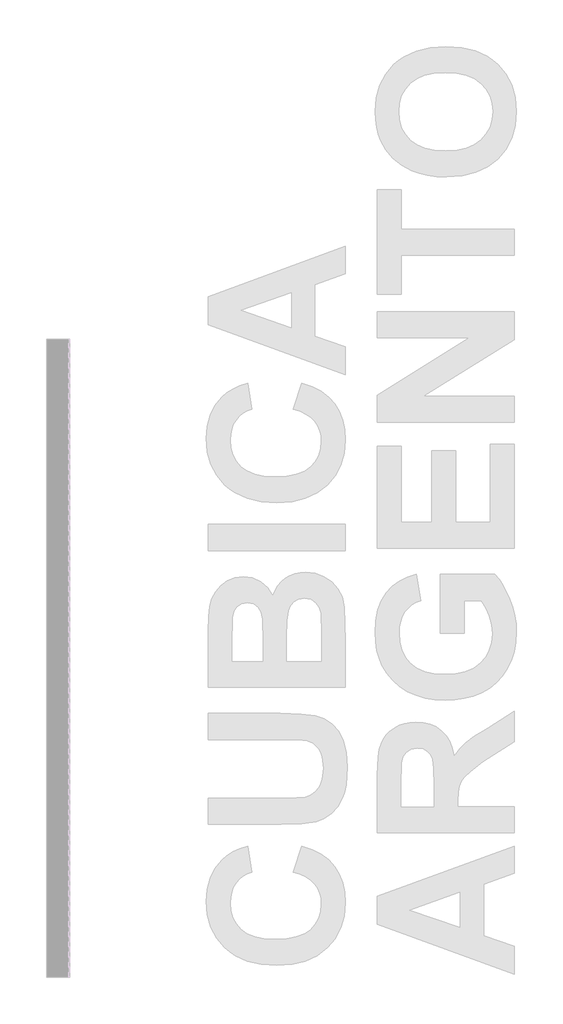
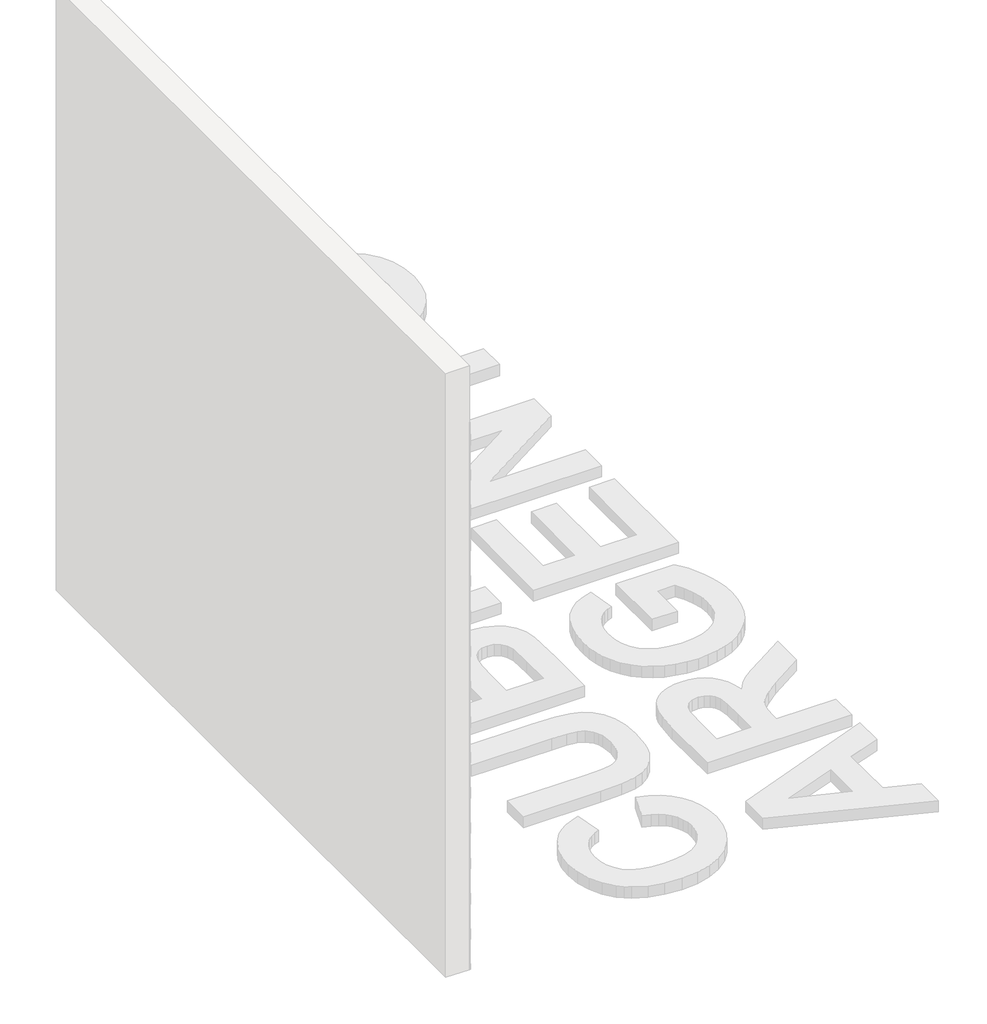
# One storey, part 13 of 121: 145 proxies.
"""IFC4 building model written with IfcOpenShell, lengths in millimetres."""

from ifc_helpers import new_model, si_unit, origin, place, context, project, spatial, transform, mapped, element, save
from components import generic_models_b2b2c5c1, generic_models_9bf73f6f, generic_models_5d175859, generic_models_95f85f1d

model = new_model("IFC4")

# Units and contexts
model_context = context("Model", 3, world=origin())
ifc_project = project(units=[si_unit("LENGTHUNIT", "METRE", prefix="MILLI")], contexts=[model_context])

# Site, building, storey
site = spatial("IfcSite", under=ifc_project)
building = spatial("IfcBuilding", under=site)
storey = spatial("IfcBuildingStorey", under=building, Name="PORTOBELLO - SHOWROOM", Elevation=0.0)

# Proxies
placement = place(None, origin())
generic_models_shape = generic_models_b2b2c5c1(model_context)
element("IfcBuildingElementProxy", 1, Name="PBSHOP - CUBICA ARGENTO 4,8X8,3 : CUBICA ARGENTO - POSIÇÃO 01", ObjectType="PBSHOP - CUBICA ARGENTO 4,8X8,3 : CUBICA ARGENTO - POSIÇÃO 01", at=placement, inside=storey, context=model_context, shape_type="MappedRepresentation", body=[
    mapped(generic_models_shape, transform((150369.5341846, -4768.345408, 39.4221668), x_axis=(0.0, 1.0, 0.0), y_axis=(0.0, 0.0, 1.0), z_axis=(1.0, 0.0, 0.0))),
])
element("IfcBuildingElementProxy", 2, Name="PBSHOP - CUBICA ARGENTO 4,8X8,3 : CUBICA ARGENTO - POSIÇÃO 01", ObjectType="PBSHOP - CUBICA ARGENTO 4,8X8,3 : CUBICA ARGENTO - POSIÇÃO 01", at=placement, inside=storey, context=model_context, shape_type="MappedRepresentation", body=[
    mapped(generic_models_shape, transform((150369.5341846, -4677.5061388, 39.4221668), x_axis=(0.0, 1.0, 0.0), y_axis=(0.0, 0.0, 1.0), z_axis=(1.0, 0.0, 0.0))),
])
element("IfcBuildingElementProxy", 3, Name="PBSHOP - CUBICA ARGENTO 4,8X8,3 : CUBICA ARGENTO - POSIÇÃO 01", ObjectType="PBSHOP - CUBICA ARGENTO 4,8X8,3 : CUBICA ARGENTO - POSIÇÃO 01", at=placement, inside=storey, context=model_context, shape_type="MappedRepresentation", body=[
    mapped(generic_models_shape, transform((150369.5341846, -4586.6668696, 39.4221668), x_axis=(0.0, 1.0, 0.0), y_axis=(0.0, 0.0, 1.0), z_axis=(1.0, 0.0, 0.0))),
])
element("IfcBuildingElementProxy", 4, Name="PBSHOP - CUBICA ARGENTO 4,8X8,3 : CUBICA ARGENTO - POSIÇÃO 01", ObjectType="PBSHOP - CUBICA ARGENTO 4,8X8,3 : CUBICA ARGENTO - POSIÇÃO 01", at=placement, inside=storey, context=model_context, shape_type="MappedRepresentation", body=[
    mapped(generic_models_shape, transform((150369.5341846, -4495.8276003, 39.4221668), x_axis=(0.0, 1.0, 0.0), y_axis=(0.0, 0.0, 1.0), z_axis=(1.0, 0.0, 0.0))),
])
element("IfcBuildingElementProxy", 5, Name="PBSHOP - CUBICA ARGENTO 4,8X8,3 : CUBICA ARGENTO - POSIÇÃO 01", ObjectType="PBSHOP - CUBICA ARGENTO 4,8X8,3 : CUBICA ARGENTO - POSIÇÃO 01", at=placement, inside=storey, context=model_context, shape_type="MappedRepresentation", body=[
    mapped(generic_models_shape, transform((150369.5341846, -4404.9883311, 39.4221668), x_axis=(0.0, 1.0, 0.0), y_axis=(0.0, 0.0, 1.0), z_axis=(1.0, 0.0, 0.0))),
])
element("IfcBuildingElementProxy", 6, Name="PBSHOP - CUBICA ARGENTO 4,8X8,3 : CUBICA ARGENTO - POSIÇÃO 01", ObjectType="PBSHOP - CUBICA ARGENTO 4,8X8,3 : CUBICA ARGENTO - POSIÇÃO 01", at=placement, inside=storey, context=model_context, shape_type="MappedRepresentation", body=[
    mapped(generic_models_shape, transform((150369.5341846, -4314.1490618, 39.4221668), x_axis=(0.0, 1.0, 0.0), y_axis=(0.0, 0.0, 1.0), z_axis=(1.0, 0.0, 0.0))),
])
element("IfcBuildingElementProxy", 7, Name="PBSHOP - CUBICA ARGENTO 4,8X8,3 : CUBICA ARGENTO - POSIÇÃO 01", ObjectType="PBSHOP - CUBICA ARGENTO 4,8X8,3 : CUBICA ARGENTO - POSIÇÃO 01", at=placement, inside=storey, context=model_context, shape_type="MappedRepresentation", body=[
    mapped(generic_models_shape, transform((150369.5341846, -4223.3097926, 39.4221668), x_axis=(0.0, 1.0, 0.0), y_axis=(0.0, 0.0, 1.0), z_axis=(1.0, 0.0, 0.0))),
])
element("IfcBuildingElementProxy", 8, Name="PBSHOP - CUBICA ARGENTO 4,8X8,3 : CUBICA ARGENTO - POSIÇÃO 01", ObjectType="PBSHOP - CUBICA ARGENTO 4,8X8,3 : CUBICA ARGENTO - POSIÇÃO 01", at=placement, inside=storey, context=model_context, shape_type="MappedRepresentation", body=[
    mapped(generic_models_shape, transform((150369.5341846, -4132.4705233, 39.4221668), x_axis=(0.0, 1.0, 0.0), y_axis=(0.0, 0.0, 1.0), z_axis=(1.0, 0.0, 0.0))),
])
element("IfcBuildingElementProxy", 9, Name="PBSHOP - CUBICA ARGENTO 4,8X8,3 : CUBICA ARGENTO - POSIÇÃO 01", ObjectType="PBSHOP - CUBICA ARGENTO 4,8X8,3 : CUBICA ARGENTO - POSIÇÃO 01", at=placement, inside=storey, context=model_context, shape_type="MappedRepresentation", body=[
    mapped(generic_models_shape, transform((150369.5341846, -4041.6312541, 39.4221668), x_axis=(0.0, 1.0, 0.0), y_axis=(0.0, 0.0, 1.0), z_axis=(1.0, 0.0, 0.0))),
])
element("IfcBuildingElementProxy", 10, Name="PBSHOP - CUBICA ARGENTO 4,8X8,3 : CUBICA ARGENTO - POSIÇÃO 01", ObjectType="PBSHOP - CUBICA ARGENTO 4,8X8,3 : CUBICA ARGENTO - POSIÇÃO 01", at=placement, inside=storey, context=model_context, shape_type="MappedRepresentation", body=[
    mapped(generic_models_shape, transform((150369.5341846, -4995.4435811, 118.3568052), x_axis=(0.0, 1.0, 0.0), y_axis=(0.0, 0.0, 1.0), z_axis=(1.0, 0.0, 0.0))),
])
element("IfcBuildingElementProxy", 11, Name="PBSHOP - CUBICA ARGENTO 4,8X8,3 : CUBICA ARGENTO - POSIÇÃO 01", ObjectType="PBSHOP - CUBICA ARGENTO 4,8X8,3 : CUBICA ARGENTO - POSIÇÃO 01", at=placement, inside=storey, context=model_context, shape_type="MappedRepresentation", body=[
    mapped(generic_models_shape, transform((150369.5341846, -4904.6043119, 118.3568052), x_axis=(0.0, 1.0, 0.0), y_axis=(0.0, 0.0, 1.0), z_axis=(1.0, 0.0, 0.0))),
])
element("IfcBuildingElementProxy", 12, Name="PBSHOP - CUBICA ARGENTO 4,8X8,3 : CUBICA ARGENTO - POSIÇÃO 01", ObjectType="PBSHOP - CUBICA ARGENTO 4,8X8,3 : CUBICA ARGENTO - POSIÇÃO 01", at=placement, inside=storey, context=model_context, shape_type="MappedRepresentation", body=[
    mapped(generic_models_shape, transform((150369.5341846, -4813.7650427, 118.3568052), x_axis=(0.0, 1.0, 0.0), y_axis=(0.0, 0.0, 1.0), z_axis=(1.0, 0.0, 0.0))),
])
element("IfcBuildingElementProxy", 13, Name="PBSHOP - CUBICA ARGENTO 4,8X8,3 : CUBICA ARGENTO - POSIÇÃO 01", ObjectType="PBSHOP - CUBICA ARGENTO 4,8X8,3 : CUBICA ARGENTO - POSIÇÃO 01", at=placement, inside=storey, context=model_context, shape_type="MappedRepresentation", body=[
    mapped(generic_models_shape, transform((150369.5341846, -4722.9257734, 118.3568052), x_axis=(0.0, 1.0, 0.0), y_axis=(0.0, 0.0, 1.0), z_axis=(1.0, 0.0, 0.0))),
])
element("IfcBuildingElementProxy", 14, Name="PBSHOP - CUBICA ARGENTO 4,8X8,3 : CUBICA ARGENTO - POSIÇÃO 01", ObjectType="PBSHOP - CUBICA ARGENTO 4,8X8,3 : CUBICA ARGENTO - POSIÇÃO 01", at=placement, inside=storey, context=model_context, shape_type="MappedRepresentation", body=[
    mapped(generic_models_shape, transform((150369.5341846, -4632.0865042, 118.3568052), x_axis=(0.0, 1.0, 0.0), y_axis=(0.0, 0.0, 1.0), z_axis=(1.0, 0.0, 0.0))),
])
element("IfcBuildingElementProxy", 15, Name="PBSHOP - CUBICA ARGENTO 4,8X8,3 : CUBICA ARGENTO - POSIÇÃO 01", ObjectType="PBSHOP - CUBICA ARGENTO 4,8X8,3 : CUBICA ARGENTO - POSIÇÃO 01", at=placement, inside=storey, context=model_context, shape_type="MappedRepresentation", body=[
    mapped(generic_models_shape, transform((150369.5341846, -4541.2472349, 118.3568052), x_axis=(0.0, 1.0, 0.0), y_axis=(0.0, 0.0, 1.0), z_axis=(1.0, 0.0, 0.0))),
])
element("IfcBuildingElementProxy", 16, Name="PBSHOP - CUBICA ARGENTO 4,8X8,3 : CUBICA ARGENTO - POSIÇÃO 01", ObjectType="PBSHOP - CUBICA ARGENTO 4,8X8,3 : CUBICA ARGENTO - POSIÇÃO 01", at=placement, inside=storey, context=model_context, shape_type="MappedRepresentation", body=[
    mapped(generic_models_shape, transform((150369.5341846, -4450.4079657, 118.3568052), x_axis=(0.0, 1.0, 0.0), y_axis=(0.0, 0.0, 1.0), z_axis=(1.0, 0.0, 0.0))),
])
element("IfcBuildingElementProxy", 17, Name="PBSHOP - CUBICA ARGENTO 4,8X8,3 : CUBICA ARGENTO - POSIÇÃO 01", ObjectType="PBSHOP - CUBICA ARGENTO 4,8X8,3 : CUBICA ARGENTO - POSIÇÃO 01", at=placement, inside=storey, context=model_context, shape_type="MappedRepresentation", body=[
    mapped(generic_models_shape, transform((150369.5341846, -4359.5686964, 118.3568052), x_axis=(0.0, 1.0, 0.0), y_axis=(0.0, 0.0, 1.0), z_axis=(1.0, 0.0, 0.0))),
])
element("IfcBuildingElementProxy", 18, Name="PBSHOP - CUBICA ARGENTO 4,8X8,3 : CUBICA ARGENTO - POSIÇÃO 01", ObjectType="PBSHOP - CUBICA ARGENTO 4,8X8,3 : CUBICA ARGENTO - POSIÇÃO 01", at=placement, inside=storey, context=model_context, shape_type="MappedRepresentation", body=[
    mapped(generic_models_shape, transform((150369.5341846, -4268.7294272, 118.3568052), x_axis=(0.0, 1.0, 0.0), y_axis=(0.0, 0.0, 1.0), z_axis=(1.0, 0.0, 0.0))),
])
element("IfcBuildingElementProxy", 19, Name="PBSHOP - CUBICA ARGENTO 4,8X8,3 : CUBICA ARGENTO - POSIÇÃO 01", ObjectType="PBSHOP - CUBICA ARGENTO 4,8X8,3 : CUBICA ARGENTO - POSIÇÃO 01", at=placement, inside=storey, context=model_context, shape_type="MappedRepresentation", body=[
    mapped(generic_models_shape, transform((150369.5341846, -4177.890158, 118.3568052), x_axis=(0.0, 1.0, 0.0), y_axis=(0.0, 0.0, 1.0), z_axis=(1.0, 0.0, 0.0))),
])
element("IfcBuildingElementProxy", 20, Name="PBSHOP - CUBICA ARGENTO 4,8X8,3 : CUBICA ARGENTO - POSIÇÃO 01", ObjectType="PBSHOP - CUBICA ARGENTO 4,8X8,3 : CUBICA ARGENTO - POSIÇÃO 01", at=placement, inside=storey, context=model_context, shape_type="MappedRepresentation", body=[
    mapped(generic_models_shape, transform((150369.5341846, -4087.0508887, 118.3568052), x_axis=(0.0, 1.0, 0.0), y_axis=(0.0, 0.0, 1.0), z_axis=(1.0, 0.0, 0.0))),
])
element("IfcBuildingElementProxy", 21, Name="PBSHOP - CUBICA ARGENTO 4,8X8,3 : CUBICA ARGENTO - POSIÇÃO 01", ObjectType="PBSHOP - CUBICA ARGENTO 4,8X8,3 : CUBICA ARGENTO - POSIÇÃO 01", at=placement, inside=storey, context=model_context, shape_type="MappedRepresentation", body=[
    mapped(generic_models_shape, transform((150369.5341846, -4950.0239465, 197.2914436), x_axis=(0.0, 1.0, 0.0), y_axis=(0.0, 0.0, 1.0), z_axis=(1.0, 0.0, 0.0))),
])
element("IfcBuildingElementProxy", 22, Name="PBSHOP - CUBICA ARGENTO 4,8X8,3 : CUBICA ARGENTO - POSIÇÃO 01", ObjectType="PBSHOP - CUBICA ARGENTO 4,8X8,3 : CUBICA ARGENTO - POSIÇÃO 01", at=placement, inside=storey, context=model_context, shape_type="MappedRepresentation", body=[
    mapped(generic_models_shape, transform((150369.5341846, -4859.1846773, 197.2914436), x_axis=(0.0, 1.0, 0.0), y_axis=(0.0, 0.0, 1.0), z_axis=(1.0, 0.0, 0.0))),
])
element("IfcBuildingElementProxy", 23, Name="PBSHOP - CUBICA ARGENTO 4,8X8,3 : CUBICA ARGENTO - POSIÇÃO 01", ObjectType="PBSHOP - CUBICA ARGENTO 4,8X8,3 : CUBICA ARGENTO - POSIÇÃO 01", at=placement, inside=storey, context=model_context, shape_type="MappedRepresentation", body=[
    mapped(generic_models_shape, transform((150369.5341846, -4768.345408, 197.2914436), x_axis=(0.0, 1.0, 0.0), y_axis=(0.0, 0.0, 1.0), z_axis=(1.0, 0.0, 0.0))),
])
element("IfcBuildingElementProxy", 24, Name="PBSHOP - CUBICA ARGENTO 4,8X8,3 : CUBICA ARGENTO - POSIÇÃO 01", ObjectType="PBSHOP - CUBICA ARGENTO 4,8X8,3 : CUBICA ARGENTO - POSIÇÃO 01", at=placement, inside=storey, context=model_context, shape_type="MappedRepresentation", body=[
    mapped(generic_models_shape, transform((150369.5341846, -4677.5061388, 197.2914436), x_axis=(0.0, 1.0, 0.0), y_axis=(0.0, 0.0, 1.0), z_axis=(1.0, 0.0, 0.0))),
])
element("IfcBuildingElementProxy", 25, Name="PBSHOP - CUBICA ARGENTO 4,8X8,3 : CUBICA ARGENTO - POSIÇÃO 01", ObjectType="PBSHOP - CUBICA ARGENTO 4,8X8,3 : CUBICA ARGENTO - POSIÇÃO 01", at=placement, inside=storey, context=model_context, shape_type="MappedRepresentation", body=[
    mapped(generic_models_shape, transform((150369.5341846, -4586.6668696, 197.2914436), x_axis=(0.0, 1.0, 0.0), y_axis=(0.0, 0.0, 1.0), z_axis=(1.0, 0.0, 0.0))),
])
element("IfcBuildingElementProxy", 26, Name="PBSHOP - CUBICA ARGENTO 4,8X8,3 : CUBICA ARGENTO - POSIÇÃO 01", ObjectType="PBSHOP - CUBICA ARGENTO 4,8X8,3 : CUBICA ARGENTO - POSIÇÃO 01", at=placement, inside=storey, context=model_context, shape_type="MappedRepresentation", body=[
    mapped(generic_models_shape, transform((150369.5341846, -4495.8276003, 197.2914436), x_axis=(0.0, 1.0, 0.0), y_axis=(0.0, 0.0, 1.0), z_axis=(1.0, 0.0, 0.0))),
])
element("IfcBuildingElementProxy", 27, Name="PBSHOP - CUBICA ARGENTO 4,8X8,3 : CUBICA ARGENTO - POSIÇÃO 01", ObjectType="PBSHOP - CUBICA ARGENTO 4,8X8,3 : CUBICA ARGENTO - POSIÇÃO 01", at=placement, inside=storey, context=model_context, shape_type="MappedRepresentation", body=[
    mapped(generic_models_shape, transform((150369.5341846, -4404.9883311, 197.2914436), x_axis=(0.0, 1.0, 0.0), y_axis=(0.0, 0.0, 1.0), z_axis=(1.0, 0.0, 0.0))),
])
element("IfcBuildingElementProxy", 28, Name="PBSHOP - CUBICA ARGENTO 4,8X8,3 : CUBICA ARGENTO - POSIÇÃO 01", ObjectType="PBSHOP - CUBICA ARGENTO 4,8X8,3 : CUBICA ARGENTO - POSIÇÃO 01", at=placement, inside=storey, context=model_context, shape_type="MappedRepresentation", body=[
    mapped(generic_models_shape, transform((150369.5341846, -4314.1490618, 197.2914436), x_axis=(0.0, 1.0, 0.0), y_axis=(0.0, 0.0, 1.0), z_axis=(1.0, 0.0, 0.0))),
])
element("IfcBuildingElementProxy", 29, Name="PBSHOP - CUBICA ARGENTO 4,8X8,3 : CUBICA ARGENTO - POSIÇÃO 01", ObjectType="PBSHOP - CUBICA ARGENTO 4,8X8,3 : CUBICA ARGENTO - POSIÇÃO 01", at=placement, inside=storey, context=model_context, shape_type="MappedRepresentation", body=[
    mapped(generic_models_shape, transform((150369.5341846, -4223.3097926, 197.2914436), x_axis=(0.0, 1.0, 0.0), y_axis=(0.0, 0.0, 1.0), z_axis=(1.0, 0.0, 0.0))),
])
element("IfcBuildingElementProxy", 30, Name="PBSHOP - CUBICA ARGENTO 4,8X8,3 : CUBICA ARGENTO - POSIÇÃO 01", ObjectType="PBSHOP - CUBICA ARGENTO 4,8X8,3 : CUBICA ARGENTO - POSIÇÃO 01", at=placement, inside=storey, context=model_context, shape_type="MappedRepresentation", body=[
    mapped(generic_models_shape, transform((150369.5341846, -4132.4705233, 197.2914436), x_axis=(0.0, 1.0, 0.0), y_axis=(0.0, 0.0, 1.0), z_axis=(1.0, 0.0, 0.0))),
])
element("IfcBuildingElementProxy", 31, Name="PBSHOP - CUBICA ARGENTO 4,8X8,3 : CUBICA ARGENTO - POSIÇÃO 01", ObjectType="PBSHOP - CUBICA ARGENTO 4,8X8,3 : CUBICA ARGENTO - POSIÇÃO 01", at=placement, inside=storey, context=model_context, shape_type="MappedRepresentation", body=[
    mapped(generic_models_shape, transform((150369.5341846, -4041.6312541, 197.2914436), x_axis=(0.0, 1.0, 0.0), y_axis=(0.0, 0.0, 1.0), z_axis=(1.0, 0.0, 0.0))),
])
element("IfcBuildingElementProxy", 32, Name="PBSHOP - CUBICA ARGENTO 4,8X8,3 : CUBICA ARGENTO - POSIÇÃO 01", ObjectType="PBSHOP - CUBICA ARGENTO 4,8X8,3 : CUBICA ARGENTO - POSIÇÃO 01", at=placement, inside=storey, context=model_context, shape_type="MappedRepresentation", body=[
    mapped(generic_models_shape, transform((150369.5341846, -4995.4435811, 276.2260819), x_axis=(0.0, 1.0, 0.0), y_axis=(0.0, 0.0, 1.0), z_axis=(1.0, 0.0, 0.0))),
])
element("IfcBuildingElementProxy", 33, Name="PBSHOP - CUBICA ARGENTO 4,8X8,3 : CUBICA ARGENTO - POSIÇÃO 01", ObjectType="PBSHOP - CUBICA ARGENTO 4,8X8,3 : CUBICA ARGENTO - POSIÇÃO 01", at=placement, inside=storey, context=model_context, shape_type="MappedRepresentation", body=[
    mapped(generic_models_shape, transform((150369.5341846, -4904.6043119, 276.2260819), x_axis=(0.0, 1.0, 0.0), y_axis=(0.0, 0.0, 1.0), z_axis=(1.0, 0.0, 0.0))),
])
element("IfcBuildingElementProxy", 34, Name="PBSHOP - CUBICA ARGENTO 4,8X8,3 : CUBICA ARGENTO - POSIÇÃO 01", ObjectType="PBSHOP - CUBICA ARGENTO 4,8X8,3 : CUBICA ARGENTO - POSIÇÃO 01", at=placement, inside=storey, context=model_context, shape_type="MappedRepresentation", body=[
    mapped(generic_models_shape, transform((150369.5341846, -4813.7650427, 276.2260819), x_axis=(0.0, 1.0, 0.0), y_axis=(0.0, 0.0, 1.0), z_axis=(1.0, 0.0, 0.0))),
])
element("IfcBuildingElementProxy", 35, Name="PBSHOP - CUBICA ARGENTO 4,8X8,3 : CUBICA ARGENTO - POSIÇÃO 01", ObjectType="PBSHOP - CUBICA ARGENTO 4,8X8,3 : CUBICA ARGENTO - POSIÇÃO 01", at=placement, inside=storey, context=model_context, shape_type="MappedRepresentation", body=[
    mapped(generic_models_shape, transform((150369.5341846, -4722.9257734, 276.2260819), x_axis=(0.0, 1.0, 0.0), y_axis=(0.0, 0.0, 1.0), z_axis=(1.0, 0.0, 0.0))),
])
element("IfcBuildingElementProxy", 36, Name="PBSHOP - CUBICA ARGENTO 4,8X8,3 : CUBICA ARGENTO - POSIÇÃO 01", ObjectType="PBSHOP - CUBICA ARGENTO 4,8X8,3 : CUBICA ARGENTO - POSIÇÃO 01", at=placement, inside=storey, context=model_context, shape_type="MappedRepresentation", body=[
    mapped(generic_models_shape, transform((150369.5341846, -4632.0865042, 276.2260819), x_axis=(0.0, 1.0, 0.0), y_axis=(0.0, 0.0, 1.0), z_axis=(1.0, 0.0, 0.0))),
])
element("IfcBuildingElementProxy", 37, Name="PBSHOP - CUBICA ARGENTO 4,8X8,3 : CUBICA ARGENTO - POSIÇÃO 01", ObjectType="PBSHOP - CUBICA ARGENTO 4,8X8,3 : CUBICA ARGENTO - POSIÇÃO 01", at=placement, inside=storey, context=model_context, shape_type="MappedRepresentation", body=[
    mapped(generic_models_shape, transform((150369.5341846, -4541.2472349, 276.2260819), x_axis=(0.0, 1.0, 0.0), y_axis=(0.0, 0.0, 1.0), z_axis=(1.0, 0.0, 0.0))),
])
element("IfcBuildingElementProxy", 38, Name="PBSHOP - CUBICA ARGENTO 4,8X8,3 : CUBICA ARGENTO - POSIÇÃO 01", ObjectType="PBSHOP - CUBICA ARGENTO 4,8X8,3 : CUBICA ARGENTO - POSIÇÃO 01", at=placement, inside=storey, context=model_context, shape_type="MappedRepresentation", body=[
    mapped(generic_models_shape, transform((150369.5341846, -4450.4079657, 276.2260819), x_axis=(0.0, 1.0, 0.0), y_axis=(0.0, 0.0, 1.0), z_axis=(1.0, 0.0, 0.0))),
])
element("IfcBuildingElementProxy", 39, Name="PBSHOP - CUBICA ARGENTO 4,8X8,3 : CUBICA ARGENTO - POSIÇÃO 01", ObjectType="PBSHOP - CUBICA ARGENTO 4,8X8,3 : CUBICA ARGENTO - POSIÇÃO 01", at=placement, inside=storey, context=model_context, shape_type="MappedRepresentation", body=[
    mapped(generic_models_shape, transform((150369.5341846, -4359.5686964, 276.2260819), x_axis=(0.0, 1.0, 0.0), y_axis=(0.0, 0.0, 1.0), z_axis=(1.0, 0.0, 0.0))),
])
element("IfcBuildingElementProxy", 40, Name="PBSHOP - CUBICA ARGENTO 4,8X8,3 : CUBICA ARGENTO - POSIÇÃO 01", ObjectType="PBSHOP - CUBICA ARGENTO 4,8X8,3 : CUBICA ARGENTO - POSIÇÃO 01", at=placement, inside=storey, context=model_context, shape_type="MappedRepresentation", body=[
    mapped(generic_models_shape, transform((150369.5341846, -4268.7294272, 276.2260819), x_axis=(0.0, 1.0, 0.0), y_axis=(0.0, 0.0, 1.0), z_axis=(1.0, 0.0, 0.0))),
])
element("IfcBuildingElementProxy", 41, Name="PBSHOP - CUBICA ARGENTO 4,8X8,3 : CUBICA ARGENTO - POSIÇÃO 01", ObjectType="PBSHOP - CUBICA ARGENTO 4,8X8,3 : CUBICA ARGENTO - POSIÇÃO 01", at=placement, inside=storey, context=model_context, shape_type="MappedRepresentation", body=[
    mapped(generic_models_shape, transform((150369.5341846, -4177.890158, 276.2260819), x_axis=(0.0, 1.0, 0.0), y_axis=(0.0, 0.0, 1.0), z_axis=(1.0, 0.0, 0.0))),
])
element("IfcBuildingElementProxy", 42, Name="PBSHOP - CUBICA ARGENTO 4,8X8,3 : CUBICA ARGENTO - POSIÇÃO 01", ObjectType="PBSHOP - CUBICA ARGENTO 4,8X8,3 : CUBICA ARGENTO - POSIÇÃO 01", at=placement, inside=storey, context=model_context, shape_type="MappedRepresentation", body=[
    mapped(generic_models_shape, transform((150369.5341846, -4087.0508887, 276.2260819), x_axis=(0.0, 1.0, 0.0), y_axis=(0.0, 0.0, 1.0), z_axis=(1.0, 0.0, 0.0))),
])
element("IfcBuildingElementProxy", 43, Name="PBSHOP - CUBICA ARGENTO 4,8X8,3 : CUBICA ARGENTO - POSIÇÃO 01", ObjectType="PBSHOP - CUBICA ARGENTO 4,8X8,3 : CUBICA ARGENTO - POSIÇÃO 01", at=placement, inside=storey, context=model_context, shape_type="MappedRepresentation", body=[
    mapped(generic_models_shape, transform((150369.5341846, -4950.0239465, 355.1607203), x_axis=(0.0, 1.0, 0.0), y_axis=(0.0, 0.0, 1.0), z_axis=(1.0, 0.0, 0.0))),
])
element("IfcBuildingElementProxy", 44, Name="PBSHOP - CUBICA ARGENTO 4,8X8,3 : CUBICA ARGENTO - POSIÇÃO 01", ObjectType="PBSHOP - CUBICA ARGENTO 4,8X8,3 : CUBICA ARGENTO - POSIÇÃO 01", at=placement, inside=storey, context=model_context, shape_type="MappedRepresentation", body=[
    mapped(generic_models_shape, transform((150369.5341846, -4859.1846773, 355.1607203), x_axis=(0.0, 1.0, 0.0), y_axis=(0.0, 0.0, 1.0), z_axis=(1.0, 0.0, 0.0))),
])
element("IfcBuildingElementProxy", 45, Name="PBSHOP - CUBICA ARGENTO 4,8X8,3 : CUBICA ARGENTO - POSIÇÃO 01", ObjectType="PBSHOP - CUBICA ARGENTO 4,8X8,3 : CUBICA ARGENTO - POSIÇÃO 01", at=placement, inside=storey, context=model_context, shape_type="MappedRepresentation", body=[
    mapped(generic_models_shape, transform((150369.5341846, -4768.345408, 355.1607203), x_axis=(0.0, 1.0, 0.0), y_axis=(0.0, 0.0, 1.0), z_axis=(1.0, 0.0, 0.0))),
])
element("IfcBuildingElementProxy", 46, Name="PBSHOP - CUBICA ARGENTO 4,8X8,3 : CUBICA ARGENTO - POSIÇÃO 01", ObjectType="PBSHOP - CUBICA ARGENTO 4,8X8,3 : CUBICA ARGENTO - POSIÇÃO 01", at=placement, inside=storey, context=model_context, shape_type="MappedRepresentation", body=[
    mapped(generic_models_shape, transform((150369.5341846, -4677.5061388, 355.1607203), x_axis=(0.0, 1.0, 0.0), y_axis=(0.0, 0.0, 1.0), z_axis=(1.0, 0.0, 0.0))),
])
element("IfcBuildingElementProxy", 47, Name="PBSHOP - CUBICA ARGENTO 4,8X8,3 : CUBICA ARGENTO - POSIÇÃO 01", ObjectType="PBSHOP - CUBICA ARGENTO 4,8X8,3 : CUBICA ARGENTO - POSIÇÃO 01", at=placement, inside=storey, context=model_context, shape_type="MappedRepresentation", body=[
    mapped(generic_models_shape, transform((150369.5341846, -4586.6668696, 355.1607203), x_axis=(0.0, 1.0, 0.0), y_axis=(0.0, 0.0, 1.0), z_axis=(1.0, 0.0, 0.0))),
])
element("IfcBuildingElementProxy", 48, Name="PBSHOP - CUBICA ARGENTO 4,8X8,3 : CUBICA ARGENTO - POSIÇÃO 01", ObjectType="PBSHOP - CUBICA ARGENTO 4,8X8,3 : CUBICA ARGENTO - POSIÇÃO 01", at=placement, inside=storey, context=model_context, shape_type="MappedRepresentation", body=[
    mapped(generic_models_shape, transform((150369.5341846, -4495.8276003, 355.1607203), x_axis=(0.0, 1.0, 0.0), y_axis=(0.0, 0.0, 1.0), z_axis=(1.0, 0.0, 0.0))),
])
element("IfcBuildingElementProxy", 49, Name="PBSHOP - CUBICA ARGENTO 4,8X8,3 : CUBICA ARGENTO - POSIÇÃO 01", ObjectType="PBSHOP - CUBICA ARGENTO 4,8X8,3 : CUBICA ARGENTO - POSIÇÃO 01", at=placement, inside=storey, context=model_context, shape_type="MappedRepresentation", body=[
    mapped(generic_models_shape, transform((150369.5341846, -4404.9883311, 355.1607203), x_axis=(0.0, 1.0, 0.0), y_axis=(0.0, 0.0, 1.0), z_axis=(1.0, 0.0, 0.0))),
])
element("IfcBuildingElementProxy", 50, Name="PBSHOP - CUBICA ARGENTO 4,8X8,3 : CUBICA ARGENTO - POSIÇÃO 01", ObjectType="PBSHOP - CUBICA ARGENTO 4,8X8,3 : CUBICA ARGENTO - POSIÇÃO 01", at=placement, inside=storey, context=model_context, shape_type="MappedRepresentation", body=[
    mapped(generic_models_shape, transform((150369.5341846, -4314.1490618, 355.1607203), x_axis=(0.0, 1.0, 0.0), y_axis=(0.0, 0.0, 1.0), z_axis=(1.0, 0.0, 0.0))),
])
generic_models_2_shape = generic_models_9bf73f6f(model_context)
element("IfcBuildingElementProxy", 51, Name="PBSHOP - CUBICA ARGENTO 4,8X8,3 : CUBICA ARGENTO - POSIÇÃO 03", ObjectType="PBSHOP - CUBICA ARGENTO 4,8X8,3 : CUBICA ARGENTO - POSIÇÃO 03", at=placement, inside=storey, context=model_context, shape_type="MappedRepresentation", body=[
    mapped(generic_models_2_shape, transform((150369.5341846, -4927.3119701, 78.8482756), x_axis=(0.0, 1.0, 0.0), y_axis=(0.0, 0.0, 1.0), z_axis=(1.0, 0.0, 0.0))),
])
element("IfcBuildingElementProxy", 52, Name="PBSHOP - CUBICA ARGENTO 4,8X8,3 : CUBICA ARGENTO - POSIÇÃO 03", ObjectType="PBSHOP - CUBICA ARGENTO 4,8X8,3 : CUBICA ARGENTO - POSIÇÃO 03", at=placement, inside=storey, context=model_context, shape_type="MappedRepresentation", body=[
    mapped(generic_models_2_shape, transform((150369.5341846, -4836.4727008, 78.8482756), x_axis=(0.0, 1.0, 0.0), y_axis=(0.0, 0.0, 1.0), z_axis=(1.0, 0.0, 0.0))),
])
element("IfcBuildingElementProxy", 53, Name="PBSHOP - CUBICA ARGENTO 4,8X8,3 : CUBICA ARGENTO - POSIÇÃO 03", ObjectType="PBSHOP - CUBICA ARGENTO 4,8X8,3 : CUBICA ARGENTO - POSIÇÃO 03", at=placement, inside=storey, context=model_context, shape_type="MappedRepresentation", body=[
    mapped(generic_models_2_shape, transform((150369.5341846, -4745.6334316, 78.8482756), x_axis=(0.0, 1.0, 0.0), y_axis=(0.0, 0.0, 1.0), z_axis=(1.0, 0.0, 0.0))),
])
element("IfcBuildingElementProxy", 54, Name="PBSHOP - CUBICA ARGENTO 4,8X8,3 : CUBICA ARGENTO - POSIÇÃO 03", ObjectType="PBSHOP - CUBICA ARGENTO 4,8X8,3 : CUBICA ARGENTO - POSIÇÃO 03", at=placement, inside=storey, context=model_context, shape_type="MappedRepresentation", body=[
    mapped(generic_models_2_shape, transform((150369.5341846, -4654.7941623, 78.8482756), x_axis=(0.0, 1.0, 0.0), y_axis=(0.0, 0.0, 1.0), z_axis=(1.0, 0.0, 0.0))),
])
element("IfcBuildingElementProxy", 55, Name="PBSHOP - CUBICA ARGENTO 4,8X8,3 : CUBICA ARGENTO - POSIÇÃO 03", ObjectType="PBSHOP - CUBICA ARGENTO 4,8X8,3 : CUBICA ARGENTO - POSIÇÃO 03", at=placement, inside=storey, context=model_context, shape_type="MappedRepresentation", body=[
    mapped(generic_models_2_shape, transform((150369.5341846, -4563.9548931, 78.8482756), x_axis=(0.0, 1.0, 0.0), y_axis=(0.0, 0.0, 1.0), z_axis=(1.0, 0.0, 0.0))),
])
element("IfcBuildingElementProxy", 56, Name="PBSHOP - CUBICA ARGENTO 4,8X8,3 : CUBICA ARGENTO - POSIÇÃO 03", ObjectType="PBSHOP - CUBICA ARGENTO 4,8X8,3 : CUBICA ARGENTO - POSIÇÃO 03", at=placement, inside=storey, context=model_context, shape_type="MappedRepresentation", body=[
    mapped(generic_models_2_shape, transform((150369.5341846, -4473.1156238, 78.8482756), x_axis=(0.0, 1.0, 0.0), y_axis=(0.0, 0.0, 1.0), z_axis=(1.0, 0.0, 0.0))),
])
element("IfcBuildingElementProxy", 57, Name="PBSHOP - CUBICA ARGENTO 4,8X8,3 : CUBICA ARGENTO - POSIÇÃO 03", ObjectType="PBSHOP - CUBICA ARGENTO 4,8X8,3 : CUBICA ARGENTO - POSIÇÃO 03", at=placement, inside=storey, context=model_context, shape_type="MappedRepresentation", body=[
    mapped(generic_models_2_shape, transform((150369.5341846, -4382.2763546, 78.8482756), x_axis=(0.0, 1.0, 0.0), y_axis=(0.0, 0.0, 1.0), z_axis=(1.0, 0.0, 0.0))),
])
element("IfcBuildingElementProxy", 58, Name="PBSHOP - CUBICA ARGENTO 4,8X8,3 : CUBICA ARGENTO - POSIÇÃO 03", ObjectType="PBSHOP - CUBICA ARGENTO 4,8X8,3 : CUBICA ARGENTO - POSIÇÃO 03", at=placement, inside=storey, context=model_context, shape_type="MappedRepresentation", body=[
    mapped(generic_models_2_shape, transform((150369.5341846, -4291.4370853, 78.8482756), x_axis=(0.0, 1.0, 0.0), y_axis=(0.0, 0.0, 1.0), z_axis=(1.0, 0.0, 0.0))),
])
element("IfcBuildingElementProxy", 59, Name="PBSHOP - CUBICA ARGENTO 4,8X8,3 : CUBICA ARGENTO - POSIÇÃO 03", ObjectType="PBSHOP - CUBICA ARGENTO 4,8X8,3 : CUBICA ARGENTO - POSIÇÃO 03", at=placement, inside=storey, context=model_context, shape_type="MappedRepresentation", body=[
    mapped(generic_models_2_shape, transform((150369.5341846, -4200.5978161, 78.8482756), x_axis=(0.0, 1.0, 0.0), y_axis=(0.0, 0.0, 1.0), z_axis=(1.0, 0.0, 0.0))),
])
element("IfcBuildingElementProxy", 60, Name="PBSHOP - CUBICA ARGENTO 4,8X8,3 : CUBICA ARGENTO - POSIÇÃO 03", ObjectType="PBSHOP - CUBICA ARGENTO 4,8X8,3 : CUBICA ARGENTO - POSIÇÃO 03", at=placement, inside=storey, context=model_context, shape_type="MappedRepresentation", body=[
    mapped(generic_models_2_shape, transform((150369.5341846, -4109.7585469, 78.8482756), x_axis=(0.0, 1.0, 0.0), y_axis=(0.0, 0.0, 1.0), z_axis=(1.0, 0.0, 0.0))),
])
element("IfcBuildingElementProxy", 61, Name="PBSHOP - CUBICA ARGENTO 4,8X8,3 : CUBICA ARGENTO - POSIÇÃO 03", ObjectType="PBSHOP - CUBICA ARGENTO 4,8X8,3 : CUBICA ARGENTO - POSIÇÃO 03", at=placement, inside=storey, context=model_context, shape_type="MappedRepresentation", body=[
    mapped(generic_models_2_shape, transform((150369.5341846, -4018.9192776, 78.8482756), x_axis=(0.0, 1.0, 0.0), y_axis=(0.0, 0.0, 1.0), z_axis=(1.0, 0.0, 0.0))),
])
element("IfcBuildingElementProxy", 62, Name="PBSHOP - CUBICA ARGENTO 4,8X8,3 : CUBICA ARGENTO - POSIÇÃO 03", ObjectType="PBSHOP - CUBICA ARGENTO 4,8X8,3 : CUBICA ARGENTO - POSIÇÃO 03", at=placement, inside=storey, context=model_context, shape_type="MappedRepresentation", body=[
    mapped(generic_models_2_shape, transform((150369.5341846, -4972.7316047, 157.7829139), x_axis=(0.0, 1.0, 0.0), y_axis=(0.0, 0.0, 1.0), z_axis=(1.0, 0.0, 0.0))),
])
element("IfcBuildingElementProxy", 63, Name="PBSHOP - CUBICA ARGENTO 4,8X8,3 : CUBICA ARGENTO - POSIÇÃO 03", ObjectType="PBSHOP - CUBICA ARGENTO 4,8X8,3 : CUBICA ARGENTO - POSIÇÃO 03", at=placement, inside=storey, context=model_context, shape_type="MappedRepresentation", body=[
    mapped(generic_models_2_shape, transform((150369.5341846, -4881.8923354, 157.7829139), x_axis=(0.0, 1.0, 0.0), y_axis=(0.0, 0.0, 1.0), z_axis=(1.0, 0.0, 0.0))),
])
element("IfcBuildingElementProxy", 64, Name="PBSHOP - CUBICA ARGENTO 4,8X8,3 : CUBICA ARGENTO - POSIÇÃO 03", ObjectType="PBSHOP - CUBICA ARGENTO 4,8X8,3 : CUBICA ARGENTO - POSIÇÃO 03", at=placement, inside=storey, context=model_context, shape_type="MappedRepresentation", body=[
    mapped(generic_models_2_shape, transform((150369.5341846, -4791.0530662, 157.7829139), x_axis=(0.0, 1.0, 0.0), y_axis=(0.0, 0.0, 1.0), z_axis=(1.0, 0.0, 0.0))),
])
element("IfcBuildingElementProxy", 65, Name="PBSHOP - CUBICA ARGENTO 4,8X8,3 : CUBICA ARGENTO - POSIÇÃO 03", ObjectType="PBSHOP - CUBICA ARGENTO 4,8X8,3 : CUBICA ARGENTO - POSIÇÃO 03", at=placement, inside=storey, context=model_context, shape_type="MappedRepresentation", body=[
    mapped(generic_models_2_shape, transform((150369.5341846, -4700.2137969, 157.7829139), x_axis=(0.0, 1.0, 0.0), y_axis=(0.0, 0.0, 1.0), z_axis=(1.0, 0.0, 0.0))),
])
element("IfcBuildingElementProxy", 66, Name="PBSHOP - CUBICA ARGENTO 4,8X8,3 : CUBICA ARGENTO - POSIÇÃO 03", ObjectType="PBSHOP - CUBICA ARGENTO 4,8X8,3 : CUBICA ARGENTO - POSIÇÃO 03", at=placement, inside=storey, context=model_context, shape_type="MappedRepresentation", body=[
    mapped(generic_models_2_shape, transform((150369.5341846, -4609.3745277, 157.7829139), x_axis=(0.0, 1.0, 0.0), y_axis=(0.0, 0.0, 1.0), z_axis=(1.0, 0.0, 0.0))),
])
element("IfcBuildingElementProxy", 67, Name="PBSHOP - CUBICA ARGENTO 4,8X8,3 : CUBICA ARGENTO - POSIÇÃO 03", ObjectType="PBSHOP - CUBICA ARGENTO 4,8X8,3 : CUBICA ARGENTO - POSIÇÃO 03", at=placement, inside=storey, context=model_context, shape_type="MappedRepresentation", body=[
    mapped(generic_models_2_shape, transform((150369.5341846, -4518.5352585, 157.7829139), x_axis=(0.0, 1.0, 0.0), y_axis=(0.0, 0.0, 1.0), z_axis=(1.0, 0.0, 0.0))),
])
element("IfcBuildingElementProxy", 68, Name="PBSHOP - CUBICA ARGENTO 4,8X8,3 : CUBICA ARGENTO - POSIÇÃO 03", ObjectType="PBSHOP - CUBICA ARGENTO 4,8X8,3 : CUBICA ARGENTO - POSIÇÃO 03", at=placement, inside=storey, context=model_context, shape_type="MappedRepresentation", body=[
    mapped(generic_models_2_shape, transform((150369.5341846, -4427.6959892, 157.7829139), x_axis=(0.0, 1.0, 0.0), y_axis=(0.0, 0.0, 1.0), z_axis=(1.0, 0.0, 0.0))),
])
element("IfcBuildingElementProxy", 69, Name="PBSHOP - CUBICA ARGENTO 4,8X8,3 : CUBICA ARGENTO - POSIÇÃO 03", ObjectType="PBSHOP - CUBICA ARGENTO 4,8X8,3 : CUBICA ARGENTO - POSIÇÃO 03", at=placement, inside=storey, context=model_context, shape_type="MappedRepresentation", body=[
    mapped(generic_models_2_shape, transform((150369.5341846, -4336.85672, 157.7829139), x_axis=(0.0, 1.0, 0.0), y_axis=(0.0, 0.0, 1.0), z_axis=(1.0, 0.0, 0.0))),
])
element("IfcBuildingElementProxy", 70, Name="PBSHOP - CUBICA ARGENTO 4,8X8,3 : CUBICA ARGENTO - POSIÇÃO 03", ObjectType="PBSHOP - CUBICA ARGENTO 4,8X8,3 : CUBICA ARGENTO - POSIÇÃO 03", at=placement, inside=storey, context=model_context, shape_type="MappedRepresentation", body=[
    mapped(generic_models_2_shape, transform((150369.5341846, -4246.0174507, 157.7829139), x_axis=(0.0, 1.0, 0.0), y_axis=(0.0, 0.0, 1.0), z_axis=(1.0, 0.0, 0.0))),
])
element("IfcBuildingElementProxy", 71, Name="PBSHOP - CUBICA ARGENTO 4,8X8,3 : CUBICA ARGENTO - POSIÇÃO 03", ObjectType="PBSHOP - CUBICA ARGENTO 4,8X8,3 : CUBICA ARGENTO - POSIÇÃO 03", at=placement, inside=storey, context=model_context, shape_type="MappedRepresentation", body=[
    mapped(generic_models_2_shape, transform((150369.5341846, -4155.1781815, 157.7829139), x_axis=(0.0, 1.0, 0.0), y_axis=(0.0, 0.0, 1.0), z_axis=(1.0, 0.0, 0.0))),
])
element("IfcBuildingElementProxy", 72, Name="PBSHOP - CUBICA ARGENTO 4,8X8,3 : CUBICA ARGENTO - POSIÇÃO 03", ObjectType="PBSHOP - CUBICA ARGENTO 4,8X8,3 : CUBICA ARGENTO - POSIÇÃO 03", at=placement, inside=storey, context=model_context, shape_type="MappedRepresentation", body=[
    mapped(generic_models_2_shape, transform((150369.5341846, -4064.3389122, 157.7829139), x_axis=(0.0, 1.0, 0.0), y_axis=(0.0, 0.0, 1.0), z_axis=(1.0, 0.0, 0.0))),
])
element("IfcBuildingElementProxy", 73, Name="PBSHOP - CUBICA ARGENTO 4,8X8,3 : CUBICA ARGENTO - POSIÇÃO 03", ObjectType="PBSHOP - CUBICA ARGENTO 4,8X8,3 : CUBICA ARGENTO - POSIÇÃO 03", at=placement, inside=storey, context=model_context, shape_type="MappedRepresentation", body=[
    mapped(generic_models_2_shape, transform((150369.5341846, -4927.3119701, 236.7175523), x_axis=(0.0, 1.0, 0.0), y_axis=(0.0, 0.0, 1.0), z_axis=(1.0, 0.0, 0.0))),
])
element("IfcBuildingElementProxy", 74, Name="PBSHOP - CUBICA ARGENTO 4,8X8,3 : CUBICA ARGENTO - POSIÇÃO 03", ObjectType="PBSHOP - CUBICA ARGENTO 4,8X8,3 : CUBICA ARGENTO - POSIÇÃO 03", at=placement, inside=storey, context=model_context, shape_type="MappedRepresentation", body=[
    mapped(generic_models_2_shape, transform((150369.5341846, -4836.4727008, 236.7175523), x_axis=(0.0, 1.0, 0.0), y_axis=(0.0, 0.0, 1.0), z_axis=(1.0, 0.0, 0.0))),
])
element("IfcBuildingElementProxy", 75, Name="PBSHOP - CUBICA ARGENTO 4,8X8,3 : CUBICA ARGENTO - POSIÇÃO 03", ObjectType="PBSHOP - CUBICA ARGENTO 4,8X8,3 : CUBICA ARGENTO - POSIÇÃO 03", at=placement, inside=storey, context=model_context, shape_type="MappedRepresentation", body=[
    mapped(generic_models_2_shape, transform((150369.5341846, -4745.6334316, 236.7175523), x_axis=(0.0, 1.0, 0.0), y_axis=(0.0, 0.0, 1.0), z_axis=(1.0, 0.0, 0.0))),
])
element("IfcBuildingElementProxy", 76, Name="PBSHOP - CUBICA ARGENTO 4,8X8,3 : CUBICA ARGENTO - POSIÇÃO 03", ObjectType="PBSHOP - CUBICA ARGENTO 4,8X8,3 : CUBICA ARGENTO - POSIÇÃO 03", at=placement, inside=storey, context=model_context, shape_type="MappedRepresentation", body=[
    mapped(generic_models_2_shape, transform((150369.5341846, -4654.7941623, 236.7175523), x_axis=(0.0, 1.0, 0.0), y_axis=(0.0, 0.0, 1.0), z_axis=(1.0, 0.0, 0.0))),
])
element("IfcBuildingElementProxy", 77, Name="PBSHOP - CUBICA ARGENTO 4,8X8,3 : CUBICA ARGENTO - POSIÇÃO 03", ObjectType="PBSHOP - CUBICA ARGENTO 4,8X8,3 : CUBICA ARGENTO - POSIÇÃO 03", at=placement, inside=storey, context=model_context, shape_type="MappedRepresentation", body=[
    mapped(generic_models_2_shape, transform((150369.5341846, -4563.9548931, 236.7175523), x_axis=(0.0, 1.0, 0.0), y_axis=(0.0, 0.0, 1.0), z_axis=(1.0, 0.0, 0.0))),
])
element("IfcBuildingElementProxy", 78, Name="PBSHOP - CUBICA ARGENTO 4,8X8,3 : CUBICA ARGENTO - POSIÇÃO 03", ObjectType="PBSHOP - CUBICA ARGENTO 4,8X8,3 : CUBICA ARGENTO - POSIÇÃO 03", at=placement, inside=storey, context=model_context, shape_type="MappedRepresentation", body=[
    mapped(generic_models_2_shape, transform((150369.5341846, -4473.1156238, 236.7175523), x_axis=(0.0, 1.0, 0.0), y_axis=(0.0, 0.0, 1.0), z_axis=(1.0, 0.0, 0.0))),
])
element("IfcBuildingElementProxy", 79, Name="PBSHOP - CUBICA ARGENTO 4,8X8,3 : CUBICA ARGENTO - POSIÇÃO 03", ObjectType="PBSHOP - CUBICA ARGENTO 4,8X8,3 : CUBICA ARGENTO - POSIÇÃO 03", at=placement, inside=storey, context=model_context, shape_type="MappedRepresentation", body=[
    mapped(generic_models_2_shape, transform((150369.5341846, -4382.2763546, 236.7175523), x_axis=(0.0, 1.0, 0.0), y_axis=(0.0, 0.0, 1.0), z_axis=(1.0, 0.0, 0.0))),
])
element("IfcBuildingElementProxy", 80, Name="PBSHOP - CUBICA ARGENTO 4,8X8,3 : CUBICA ARGENTO - POSIÇÃO 03", ObjectType="PBSHOP - CUBICA ARGENTO 4,8X8,3 : CUBICA ARGENTO - POSIÇÃO 03", at=placement, inside=storey, context=model_context, shape_type="MappedRepresentation", body=[
    mapped(generic_models_2_shape, transform((150369.5341846, -4291.4370853, 236.7175523), x_axis=(0.0, 1.0, 0.0), y_axis=(0.0, 0.0, 1.0), z_axis=(1.0, 0.0, 0.0))),
])
element("IfcBuildingElementProxy", 81, Name="PBSHOP - CUBICA ARGENTO 4,8X8,3 : CUBICA ARGENTO - POSIÇÃO 03", ObjectType="PBSHOP - CUBICA ARGENTO 4,8X8,3 : CUBICA ARGENTO - POSIÇÃO 03", at=placement, inside=storey, context=model_context, shape_type="MappedRepresentation", body=[
    mapped(generic_models_2_shape, transform((150369.5341846, -4200.5978161, 236.7175523), x_axis=(0.0, 1.0, 0.0), y_axis=(0.0, 0.0, 1.0), z_axis=(1.0, 0.0, 0.0))),
])
element("IfcBuildingElementProxy", 82, Name="PBSHOP - CUBICA ARGENTO 4,8X8,3 : CUBICA ARGENTO - POSIÇÃO 03", ObjectType="PBSHOP - CUBICA ARGENTO 4,8X8,3 : CUBICA ARGENTO - POSIÇÃO 03", at=placement, inside=storey, context=model_context, shape_type="MappedRepresentation", body=[
    mapped(generic_models_2_shape, transform((150369.5341846, -4109.7585469, 236.7175523), x_axis=(0.0, 1.0, 0.0), y_axis=(0.0, 0.0, 1.0), z_axis=(1.0, 0.0, 0.0))),
])
element("IfcBuildingElementProxy", 83, Name="PBSHOP - CUBICA ARGENTO 4,8X8,3 : CUBICA ARGENTO - POSIÇÃO 03", ObjectType="PBSHOP - CUBICA ARGENTO 4,8X8,3 : CUBICA ARGENTO - POSIÇÃO 03", at=placement, inside=storey, context=model_context, shape_type="MappedRepresentation", body=[
    mapped(generic_models_2_shape, transform((150369.5341846, -4018.9192776, 236.7175523), x_axis=(0.0, 1.0, 0.0), y_axis=(0.0, 0.0, 1.0), z_axis=(1.0, 0.0, 0.0))),
])
generic_models_3_shape = generic_models_5d175859(model_context)
element("IfcBuildingElementProxy", 84, Name="PBSHOP - CUBICA ARGENTO 4,8X8,3 : CUBICA ARGENTO - POSIÇÃO 01", ObjectType="PBSHOP - CUBICA ARGENTO 4,8X8,3 : CUBICA ARGENTO - POSIÇÃO 01", at=placement, inside=storey, context=model_context, shape_type="MappedRepresentation", body=[
    mapped(generic_models_3_shape, transform((150369.5341846, -4813.7607243, 39.4221668), x_axis=(0.0, -1.0, 0.0), y_axis=(0.0, 0.0, -1.0), z_axis=(1.0, 0.0, 0.0))),
])
element("IfcBuildingElementProxy", 85, Name="PBSHOP - CUBICA ARGENTO 4,8X8,3 : CUBICA ARGENTO - POSIÇÃO 01", ObjectType="PBSHOP - CUBICA ARGENTO 4,8X8,3 : CUBICA ARGENTO - POSIÇÃO 01", at=placement, inside=storey, context=model_context, shape_type="MappedRepresentation", body=[
    mapped(generic_models_3_shape, transform((150369.5341846, -4722.9214551, 39.4221668), x_axis=(0.0, -1.0, 0.0), y_axis=(0.0, 0.0, -1.0), z_axis=(1.0, 0.0, 0.0))),
])
element("IfcBuildingElementProxy", 86, Name="PBSHOP - CUBICA ARGENTO 4,8X8,3 : CUBICA ARGENTO - POSIÇÃO 01", ObjectType="PBSHOP - CUBICA ARGENTO 4,8X8,3 : CUBICA ARGENTO - POSIÇÃO 01", at=placement, inside=storey, context=model_context, shape_type="MappedRepresentation", body=[
    mapped(generic_models_3_shape, transform((150369.5341846, -4632.0821858, 39.4221668), x_axis=(0.0, -1.0, 0.0), y_axis=(0.0, 0.0, -1.0), z_axis=(1.0, 0.0, 0.0))),
])
element("IfcBuildingElementProxy", 87, Name="PBSHOP - CUBICA ARGENTO 4,8X8,3 : CUBICA ARGENTO - POSIÇÃO 01", ObjectType="PBSHOP - CUBICA ARGENTO 4,8X8,3 : CUBICA ARGENTO - POSIÇÃO 01", at=placement, inside=storey, context=model_context, shape_type="MappedRepresentation", body=[
    mapped(generic_models_3_shape, transform((150369.5341846, -4541.2429166, 39.4221668), x_axis=(0.0, -1.0, 0.0), y_axis=(0.0, 0.0, -1.0), z_axis=(1.0, 0.0, 0.0))),
])
element("IfcBuildingElementProxy", 88, Name="PBSHOP - CUBICA ARGENTO 4,8X8,3 : CUBICA ARGENTO - POSIÇÃO 01", ObjectType="PBSHOP - CUBICA ARGENTO 4,8X8,3 : CUBICA ARGENTO - POSIÇÃO 01", at=placement, inside=storey, context=model_context, shape_type="MappedRepresentation", body=[
    mapped(generic_models_3_shape, transform((150369.5341846, -4450.4036474, 39.4221668), x_axis=(0.0, -1.0, 0.0), y_axis=(0.0, 0.0, -1.0), z_axis=(1.0, 0.0, 0.0))),
])
element("IfcBuildingElementProxy", 89, Name="PBSHOP - CUBICA ARGENTO 4,8X8,3 : CUBICA ARGENTO - POSIÇÃO 01", ObjectType="PBSHOP - CUBICA ARGENTO 4,8X8,3 : CUBICA ARGENTO - POSIÇÃO 01", at=placement, inside=storey, context=model_context, shape_type="MappedRepresentation", body=[
    mapped(generic_models_3_shape, transform((150369.5341846, -4359.5643781, 39.4221668), x_axis=(0.0, -1.0, 0.0), y_axis=(0.0, 0.0, -1.0), z_axis=(1.0, 0.0, 0.0))),
])
element("IfcBuildingElementProxy", 90, Name="PBSHOP - CUBICA ARGENTO 4,8X8,3 : CUBICA ARGENTO - POSIÇÃO 01", ObjectType="PBSHOP - CUBICA ARGENTO 4,8X8,3 : CUBICA ARGENTO - POSIÇÃO 01", at=placement, inside=storey, context=model_context, shape_type="MappedRepresentation", body=[
    mapped(generic_models_3_shape, transform((150369.5341846, -4268.7251089, 39.4221668), x_axis=(0.0, -1.0, 0.0), y_axis=(0.0, 0.0, -1.0), z_axis=(1.0, 0.0, 0.0))),
])
element("IfcBuildingElementProxy", 91, Name="PBSHOP - CUBICA ARGENTO 4,8X8,3 : CUBICA ARGENTO - POSIÇÃO 01", ObjectType="PBSHOP - CUBICA ARGENTO 4,8X8,3 : CUBICA ARGENTO - POSIÇÃO 01", at=placement, inside=storey, context=model_context, shape_type="MappedRepresentation", body=[
    mapped(generic_models_3_shape, transform((150369.5341846, -4177.8858396, 39.4221668), x_axis=(0.0, -1.0, 0.0), y_axis=(0.0, 0.0, -1.0), z_axis=(1.0, 0.0, 0.0))),
])
element("IfcBuildingElementProxy", 92, Name="PBSHOP - CUBICA ARGENTO 4,8X8,3 : CUBICA ARGENTO - POSIÇÃO 01", ObjectType="PBSHOP - CUBICA ARGENTO 4,8X8,3 : CUBICA ARGENTO - POSIÇÃO 01", at=placement, inside=storey, context=model_context, shape_type="MappedRepresentation", body=[
    mapped(generic_models_3_shape, transform((150369.5341846, -4087.0465704, 39.4221668), x_axis=(0.0, -1.0, 0.0), y_axis=(0.0, 0.0, -1.0), z_axis=(1.0, 0.0, 0.0))),
])
element("IfcBuildingElementProxy", 93, Name="PBSHOP - CUBICA ARGENTO 4,8X8,3 : CUBICA ARGENTO - POSIÇÃO 01", ObjectType="PBSHOP - CUBICA ARGENTO 4,8X8,3 : CUBICA ARGENTO - POSIÇÃO 01", at=placement, inside=storey, context=model_context, shape_type="MappedRepresentation", body=[
    mapped(generic_models_3_shape, transform((150369.5341846, -4950.0196282, 118.3568052), x_axis=(0.0, -1.0, 0.0), y_axis=(0.0, 0.0, -1.0), z_axis=(1.0, 0.0, 0.0))),
])
element("IfcBuildingElementProxy", 94, Name="PBSHOP - CUBICA ARGENTO 4,8X8,3 : CUBICA ARGENTO - POSIÇÃO 01", ObjectType="PBSHOP - CUBICA ARGENTO 4,8X8,3 : CUBICA ARGENTO - POSIÇÃO 01", at=placement, inside=storey, context=model_context, shape_type="MappedRepresentation", body=[
    mapped(generic_models_3_shape, transform((150369.5341846, -4859.180359, 118.3568052), x_axis=(0.0, -1.0, 0.0), y_axis=(0.0, 0.0, -1.0), z_axis=(1.0, 0.0, 0.0))),
])
element("IfcBuildingElementProxy", 95, Name="PBSHOP - CUBICA ARGENTO 4,8X8,3 : CUBICA ARGENTO - POSIÇÃO 01", ObjectType="PBSHOP - CUBICA ARGENTO 4,8X8,3 : CUBICA ARGENTO - POSIÇÃO 01", at=placement, inside=storey, context=model_context, shape_type="MappedRepresentation", body=[
    mapped(generic_models_3_shape, transform((150369.5341846, -4768.3410897, 118.3568052), x_axis=(0.0, -1.0, 0.0), y_axis=(0.0, 0.0, -1.0), z_axis=(1.0, 0.0, 0.0))),
])
element("IfcBuildingElementProxy", 96, Name="PBSHOP - CUBICA ARGENTO 4,8X8,3 : CUBICA ARGENTO - POSIÇÃO 01", ObjectType="PBSHOP - CUBICA ARGENTO 4,8X8,3 : CUBICA ARGENTO - POSIÇÃO 01", at=placement, inside=storey, context=model_context, shape_type="MappedRepresentation", body=[
    mapped(generic_models_3_shape, transform((150369.5341846, -4677.5018205, 118.3568052), x_axis=(0.0, -1.0, 0.0), y_axis=(0.0, 0.0, -1.0), z_axis=(1.0, 0.0, 0.0))),
])
element("IfcBuildingElementProxy", 97, Name="PBSHOP - CUBICA ARGENTO 4,8X8,3 : CUBICA ARGENTO - POSIÇÃO 01", ObjectType="PBSHOP - CUBICA ARGENTO 4,8X8,3 : CUBICA ARGENTO - POSIÇÃO 01", at=placement, inside=storey, context=model_context, shape_type="MappedRepresentation", body=[
    mapped(generic_models_3_shape, transform((150369.5341846, -4586.6625512, 118.3568052), x_axis=(0.0, -1.0, 0.0), y_axis=(0.0, 0.0, -1.0), z_axis=(1.0, 0.0, 0.0))),
])
element("IfcBuildingElementProxy", 98, Name="PBSHOP - CUBICA ARGENTO 4,8X8,3 : CUBICA ARGENTO - POSIÇÃO 01", ObjectType="PBSHOP - CUBICA ARGENTO 4,8X8,3 : CUBICA ARGENTO - POSIÇÃO 01", at=placement, inside=storey, context=model_context, shape_type="MappedRepresentation", body=[
    mapped(generic_models_3_shape, transform((150369.5341846, -4495.823282, 118.3568052), x_axis=(0.0, -1.0, 0.0), y_axis=(0.0, 0.0, -1.0), z_axis=(1.0, 0.0, 0.0))),
])
element("IfcBuildingElementProxy", 99, Name="PBSHOP - CUBICA ARGENTO 4,8X8,3 : CUBICA ARGENTO - POSIÇÃO 01", ObjectType="PBSHOP - CUBICA ARGENTO 4,8X8,3 : CUBICA ARGENTO - POSIÇÃO 01", at=placement, inside=storey, context=model_context, shape_type="MappedRepresentation", body=[
    mapped(generic_models_3_shape, transform((150369.5341846, -4404.9840127, 118.3568052), x_axis=(0.0, -1.0, 0.0), y_axis=(0.0, 0.0, -1.0), z_axis=(1.0, 0.0, 0.0))),
])
element("IfcBuildingElementProxy", 100, Name="PBSHOP - CUBICA ARGENTO 4,8X8,3 : CUBICA ARGENTO - POSIÇÃO 01", ObjectType="PBSHOP - CUBICA ARGENTO 4,8X8,3 : CUBICA ARGENTO - POSIÇÃO 01", at=placement, inside=storey, context=model_context, shape_type="MappedRepresentation", body=[
    mapped(generic_models_3_shape, transform((150369.5341846, -4314.1447435, 118.3568052), x_axis=(0.0, -1.0, 0.0), y_axis=(0.0, 0.0, -1.0), z_axis=(1.0, 0.0, 0.0))),
])
element("IfcBuildingElementProxy", 101, Name="PBSHOP - CUBICA ARGENTO 4,8X8,3 : CUBICA ARGENTO - POSIÇÃO 01", ObjectType="PBSHOP - CUBICA ARGENTO 4,8X8,3 : CUBICA ARGENTO - POSIÇÃO 01", at=placement, inside=storey, context=model_context, shape_type="MappedRepresentation", body=[
    mapped(generic_models_3_shape, transform((150369.5341846, -4223.3054742, 118.3568052), x_axis=(0.0, -1.0, 0.0), y_axis=(0.0, 0.0, -1.0), z_axis=(1.0, 0.0, 0.0))),
])
element("IfcBuildingElementProxy", 102, Name="PBSHOP - CUBICA ARGENTO 4,8X8,3 : CUBICA ARGENTO - POSIÇÃO 01", ObjectType="PBSHOP - CUBICA ARGENTO 4,8X8,3 : CUBICA ARGENTO - POSIÇÃO 01", at=placement, inside=storey, context=model_context, shape_type="MappedRepresentation", body=[
    mapped(generic_models_3_shape, transform((150369.5341846, -4132.466205, 118.3568052), x_axis=(0.0, -1.0, 0.0), y_axis=(0.0, 0.0, -1.0), z_axis=(1.0, 0.0, 0.0))),
])
element("IfcBuildingElementProxy", 103, Name="PBSHOP - CUBICA ARGENTO 4,8X8,3 : CUBICA ARGENTO - POSIÇÃO 01", ObjectType="PBSHOP - CUBICA ARGENTO 4,8X8,3 : CUBICA ARGENTO - POSIÇÃO 01", at=placement, inside=storey, context=model_context, shape_type="MappedRepresentation", body=[
    mapped(generic_models_3_shape, transform((150369.5341846, -4041.6269358, 118.3568052), x_axis=(0.0, -1.0, 0.0), y_axis=(0.0, 0.0, -1.0), z_axis=(1.0, 0.0, 0.0))),
])
element("IfcBuildingElementProxy", 104, Name="PBSHOP - CUBICA ARGENTO 4,8X8,3 : CUBICA ARGENTO - POSIÇÃO 01", ObjectType="PBSHOP - CUBICA ARGENTO 4,8X8,3 : CUBICA ARGENTO - POSIÇÃO 01", at=placement, inside=storey, context=model_context, shape_type="MappedRepresentation", body=[
    mapped(generic_models_3_shape, transform((150369.5341846, -4995.4392628, 197.2914436), x_axis=(0.0, -1.0, 0.0), y_axis=(0.0, 0.0, -1.0), z_axis=(1.0, 0.0, 0.0))),
])
element("IfcBuildingElementProxy", 105, Name="PBSHOP - CUBICA ARGENTO 4,8X8,3 : CUBICA ARGENTO - POSIÇÃO 01", ObjectType="PBSHOP - CUBICA ARGENTO 4,8X8,3 : CUBICA ARGENTO - POSIÇÃO 01", at=placement, inside=storey, context=model_context, shape_type="MappedRepresentation", body=[
    mapped(generic_models_3_shape, transform((150369.5341846, -4904.5999936, 197.2914436), x_axis=(0.0, -1.0, 0.0), y_axis=(0.0, 0.0, -1.0), z_axis=(1.0, 0.0, 0.0))),
])
element("IfcBuildingElementProxy", 106, Name="PBSHOP - CUBICA ARGENTO 4,8X8,3 : CUBICA ARGENTO - POSIÇÃO 01", ObjectType="PBSHOP - CUBICA ARGENTO 4,8X8,3 : CUBICA ARGENTO - POSIÇÃO 01", at=placement, inside=storey, context=model_context, shape_type="MappedRepresentation", body=[
    mapped(generic_models_3_shape, transform((150369.5341846, -4813.7607243, 197.2914436), x_axis=(0.0, -1.0, 0.0), y_axis=(0.0, 0.0, -1.0), z_axis=(1.0, 0.0, 0.0))),
])
element("IfcBuildingElementProxy", 107, Name="PBSHOP - CUBICA ARGENTO 4,8X8,3 : CUBICA ARGENTO - POSIÇÃO 01", ObjectType="PBSHOP - CUBICA ARGENTO 4,8X8,3 : CUBICA ARGENTO - POSIÇÃO 01", at=placement, inside=storey, context=model_context, shape_type="MappedRepresentation", body=[
    mapped(generic_models_3_shape, transform((150369.5341846, -4722.9214551, 197.2914436), x_axis=(0.0, -1.0, 0.0), y_axis=(0.0, 0.0, -1.0), z_axis=(1.0, 0.0, 0.0))),
])
element("IfcBuildingElementProxy", 108, Name="PBSHOP - CUBICA ARGENTO 4,8X8,3 : CUBICA ARGENTO - POSIÇÃO 01", ObjectType="PBSHOP - CUBICA ARGENTO 4,8X8,3 : CUBICA ARGENTO - POSIÇÃO 01", at=placement, inside=storey, context=model_context, shape_type="MappedRepresentation", body=[
    mapped(generic_models_3_shape, transform((150369.5341846, -4632.0821858, 197.2914436), x_axis=(0.0, -1.0, 0.0), y_axis=(0.0, 0.0, -1.0), z_axis=(1.0, 0.0, 0.0))),
])
element("IfcBuildingElementProxy", 109, Name="PBSHOP - CUBICA ARGENTO 4,8X8,3 : CUBICA ARGENTO - POSIÇÃO 01", ObjectType="PBSHOP - CUBICA ARGENTO 4,8X8,3 : CUBICA ARGENTO - POSIÇÃO 01", at=placement, inside=storey, context=model_context, shape_type="MappedRepresentation", body=[
    mapped(generic_models_3_shape, transform((150369.5341846, -4541.2429166, 197.2914436), x_axis=(0.0, -1.0, 0.0), y_axis=(0.0, 0.0, -1.0), z_axis=(1.0, 0.0, 0.0))),
])
element("IfcBuildingElementProxy", 110, Name="PBSHOP - CUBICA ARGENTO 4,8X8,3 : CUBICA ARGENTO - POSIÇÃO 01", ObjectType="PBSHOP - CUBICA ARGENTO 4,8X8,3 : CUBICA ARGENTO - POSIÇÃO 01", at=placement, inside=storey, context=model_context, shape_type="MappedRepresentation", body=[
    mapped(generic_models_3_shape, transform((150369.5341846, -4450.4036474, 197.2914436), x_axis=(0.0, -1.0, 0.0), y_axis=(0.0, 0.0, -1.0), z_axis=(1.0, 0.0, 0.0))),
])
element("IfcBuildingElementProxy", 111, Name="PBSHOP - CUBICA ARGENTO 4,8X8,3 : CUBICA ARGENTO - POSIÇÃO 01", ObjectType="PBSHOP - CUBICA ARGENTO 4,8X8,3 : CUBICA ARGENTO - POSIÇÃO 01", at=placement, inside=storey, context=model_context, shape_type="MappedRepresentation", body=[
    mapped(generic_models_3_shape, transform((150369.5341846, -4359.5643781, 197.2914436), x_axis=(0.0, -1.0, 0.0), y_axis=(0.0, 0.0, -1.0), z_axis=(1.0, 0.0, 0.0))),
])
element("IfcBuildingElementProxy", 112, Name="PBSHOP - CUBICA ARGENTO 4,8X8,3 : CUBICA ARGENTO - POSIÇÃO 01", ObjectType="PBSHOP - CUBICA ARGENTO 4,8X8,3 : CUBICA ARGENTO - POSIÇÃO 01", at=placement, inside=storey, context=model_context, shape_type="MappedRepresentation", body=[
    mapped(generic_models_3_shape, transform((150369.5341846, -4268.7251089, 197.2914436), x_axis=(0.0, -1.0, 0.0), y_axis=(0.0, 0.0, -1.0), z_axis=(1.0, 0.0, 0.0))),
])
element("IfcBuildingElementProxy", 113, Name="PBSHOP - CUBICA ARGENTO 4,8X8,3 : CUBICA ARGENTO - POSIÇÃO 01", ObjectType="PBSHOP - CUBICA ARGENTO 4,8X8,3 : CUBICA ARGENTO - POSIÇÃO 01", at=placement, inside=storey, context=model_context, shape_type="MappedRepresentation", body=[
    mapped(generic_models_3_shape, transform((150369.5341846, -4177.8858396, 197.2914436), x_axis=(0.0, -1.0, 0.0), y_axis=(0.0, 0.0, -1.0), z_axis=(1.0, 0.0, 0.0))),
])
element("IfcBuildingElementProxy", 114, Name="PBSHOP - CUBICA ARGENTO 4,8X8,3 : CUBICA ARGENTO - POSIÇÃO 01", ObjectType="PBSHOP - CUBICA ARGENTO 4,8X8,3 : CUBICA ARGENTO - POSIÇÃO 01", at=placement, inside=storey, context=model_context, shape_type="MappedRepresentation", body=[
    mapped(generic_models_3_shape, transform((150369.5341846, -4087.0465704, 197.2914436), x_axis=(0.0, -1.0, 0.0), y_axis=(0.0, 0.0, -1.0), z_axis=(1.0, 0.0, 0.0))),
])
element("IfcBuildingElementProxy", 115, Name="PBSHOP - CUBICA ARGENTO 4,8X8,3 : CUBICA ARGENTO - POSIÇÃO 01", ObjectType="PBSHOP - CUBICA ARGENTO 4,8X8,3 : CUBICA ARGENTO - POSIÇÃO 01", at=placement, inside=storey, context=model_context, shape_type="MappedRepresentation", body=[
    mapped(generic_models_3_shape, transform((150369.5341846, -4950.0196282, 276.2260819), x_axis=(0.0, -1.0, 0.0), y_axis=(0.0, 0.0, -1.0), z_axis=(1.0, 0.0, 0.0))),
])
element("IfcBuildingElementProxy", 116, Name="PBSHOP - CUBICA ARGENTO 4,8X8,3 : CUBICA ARGENTO - POSIÇÃO 01", ObjectType="PBSHOP - CUBICA ARGENTO 4,8X8,3 : CUBICA ARGENTO - POSIÇÃO 01", at=placement, inside=storey, context=model_context, shape_type="MappedRepresentation", body=[
    mapped(generic_models_3_shape, transform((150369.5341846, -4859.180359, 276.2260819), x_axis=(0.0, -1.0, 0.0), y_axis=(0.0, 0.0, -1.0), z_axis=(1.0, 0.0, 0.0))),
])
element("IfcBuildingElementProxy", 117, Name="PBSHOP - CUBICA ARGENTO 4,8X8,3 : CUBICA ARGENTO - POSIÇÃO 01", ObjectType="PBSHOP - CUBICA ARGENTO 4,8X8,3 : CUBICA ARGENTO - POSIÇÃO 01", at=placement, inside=storey, context=model_context, shape_type="MappedRepresentation", body=[
    mapped(generic_models_3_shape, transform((150369.5341846, -4768.3410897, 276.2260819), x_axis=(0.0, -1.0, 0.0), y_axis=(0.0, 0.0, -1.0), z_axis=(1.0, 0.0, 0.0))),
])
element("IfcBuildingElementProxy", 118, Name="PBSHOP - CUBICA ARGENTO 4,8X8,3 : CUBICA ARGENTO - POSIÇÃO 01", ObjectType="PBSHOP - CUBICA ARGENTO 4,8X8,3 : CUBICA ARGENTO - POSIÇÃO 01", at=placement, inside=storey, context=model_context, shape_type="MappedRepresentation", body=[
    mapped(generic_models_3_shape, transform((150369.5341846, -4677.5018205, 276.2260819), x_axis=(0.0, -1.0, 0.0), y_axis=(0.0, 0.0, -1.0), z_axis=(1.0, 0.0, 0.0))),
])
element("IfcBuildingElementProxy", 119, Name="PBSHOP - CUBICA ARGENTO 4,8X8,3 : CUBICA ARGENTO - POSIÇÃO 01", ObjectType="PBSHOP - CUBICA ARGENTO 4,8X8,3 : CUBICA ARGENTO - POSIÇÃO 01", at=placement, inside=storey, context=model_context, shape_type="MappedRepresentation", body=[
    mapped(generic_models_3_shape, transform((150369.5341846, -4586.6625512, 276.2260819), x_axis=(0.0, -1.0, 0.0), y_axis=(0.0, 0.0, -1.0), z_axis=(1.0, 0.0, 0.0))),
])
element("IfcBuildingElementProxy", 120, Name="PBSHOP - CUBICA ARGENTO 4,8X8,3 : CUBICA ARGENTO - POSIÇÃO 01", ObjectType="PBSHOP - CUBICA ARGENTO 4,8X8,3 : CUBICA ARGENTO - POSIÇÃO 01", at=placement, inside=storey, context=model_context, shape_type="MappedRepresentation", body=[
    mapped(generic_models_3_shape, transform((150369.5341846, -4495.823282, 276.2260819), x_axis=(0.0, -1.0, 0.0), y_axis=(0.0, 0.0, -1.0), z_axis=(1.0, 0.0, 0.0))),
])
element("IfcBuildingElementProxy", 121, Name="PBSHOP - CUBICA ARGENTO 4,8X8,3 : CUBICA ARGENTO - POSIÇÃO 01", ObjectType="PBSHOP - CUBICA ARGENTO 4,8X8,3 : CUBICA ARGENTO - POSIÇÃO 01", at=placement, inside=storey, context=model_context, shape_type="MappedRepresentation", body=[
    mapped(generic_models_3_shape, transform((150369.5341846, -4404.9840127, 276.2260819), x_axis=(0.0, -1.0, 0.0), y_axis=(0.0, 0.0, -1.0), z_axis=(1.0, 0.0, 0.0))),
])
element("IfcBuildingElementProxy", 122, Name="PBSHOP - CUBICA ARGENTO 4,8X8,3 : CUBICA ARGENTO - POSIÇÃO 01", ObjectType="PBSHOP - CUBICA ARGENTO 4,8X8,3 : CUBICA ARGENTO - POSIÇÃO 01", at=placement, inside=storey, context=model_context, shape_type="MappedRepresentation", body=[
    mapped(generic_models_3_shape, transform((150369.5341846, -4314.1447435, 276.2260819), x_axis=(0.0, -1.0, 0.0), y_axis=(0.0, 0.0, -1.0), z_axis=(1.0, 0.0, 0.0))),
])
element("IfcBuildingElementProxy", 123, Name="PBSHOP - CUBICA ARGENTO 4,8X8,3 : CUBICA ARGENTO - POSIÇÃO 01", ObjectType="PBSHOP - CUBICA ARGENTO 4,8X8,3 : CUBICA ARGENTO - POSIÇÃO 01", at=placement, inside=storey, context=model_context, shape_type="MappedRepresentation", body=[
    mapped(generic_models_3_shape, transform((150369.5341846, -4223.3054742, 276.2260819), x_axis=(0.0, -1.0, 0.0), y_axis=(0.0, 0.0, -1.0), z_axis=(1.0, 0.0, 0.0))),
])
element("IfcBuildingElementProxy", 124, Name="PBSHOP - CUBICA ARGENTO 4,8X8,3 : CUBICA ARGENTO - POSIÇÃO 01", ObjectType="PBSHOP - CUBICA ARGENTO 4,8X8,3 : CUBICA ARGENTO - POSIÇÃO 01", at=placement, inside=storey, context=model_context, shape_type="MappedRepresentation", body=[
    mapped(generic_models_3_shape, transform((150369.5341846, -4132.466205, 276.2260819), x_axis=(0.0, -1.0, 0.0), y_axis=(0.0, 0.0, -1.0), z_axis=(1.0, 0.0, 0.0))),
])
element("IfcBuildingElementProxy", 125, Name="PBSHOP - CUBICA ARGENTO 4,8X8,3 : CUBICA ARGENTO - POSIÇÃO 01", ObjectType="PBSHOP - CUBICA ARGENTO 4,8X8,3 : CUBICA ARGENTO - POSIÇÃO 01", at=placement, inside=storey, context=model_context, shape_type="MappedRepresentation", body=[
    mapped(generic_models_3_shape, transform((150369.5341846, -4041.6269358, 276.2260819), x_axis=(0.0, -1.0, 0.0), y_axis=(0.0, 0.0, -1.0), z_axis=(1.0, 0.0, 0.0))),
])
element("IfcBuildingElementProxy", 126, Name="PBSHOP - CUBICA ARGENTO 4,8X8,3 : CUBICA ARGENTO - POSIÇÃO 01", ObjectType="PBSHOP - CUBICA ARGENTO 4,8X8,3 : CUBICA ARGENTO - POSIÇÃO 01", at=placement, inside=storey, context=model_context, shape_type="MappedRepresentation", body=[
    mapped(generic_models_3_shape, transform((150369.5341846, -4995.4392628, 355.1607203), x_axis=(0.0, -1.0, 0.0), y_axis=(0.0, 0.0, -1.0), z_axis=(1.0, 0.0, 0.0))),
])
element("IfcBuildingElementProxy", 127, Name="PBSHOP - CUBICA ARGENTO 4,8X8,3 : CUBICA ARGENTO - POSIÇÃO 01", ObjectType="PBSHOP - CUBICA ARGENTO 4,8X8,3 : CUBICA ARGENTO - POSIÇÃO 01", at=placement, inside=storey, context=model_context, shape_type="MappedRepresentation", body=[
    mapped(generic_models_3_shape, transform((150369.5341846, -4904.5999936, 355.1607203), x_axis=(0.0, -1.0, 0.0), y_axis=(0.0, 0.0, -1.0), z_axis=(1.0, 0.0, 0.0))),
])
element("IfcBuildingElementProxy", 128, Name="PBSHOP - CUBICA ARGENTO 4,8X8,3 : CUBICA ARGENTO - POSIÇÃO 01", ObjectType="PBSHOP - CUBICA ARGENTO 4,8X8,3 : CUBICA ARGENTO - POSIÇÃO 01", at=placement, inside=storey, context=model_context, shape_type="MappedRepresentation", body=[
    mapped(generic_models_3_shape, transform((150369.5341846, -4813.7607243, 355.1607203), x_axis=(0.0, -1.0, 0.0), y_axis=(0.0, 0.0, -1.0), z_axis=(1.0, 0.0, 0.0))),
])
element("IfcBuildingElementProxy", 129, Name="PBSHOP - CUBICA ARGENTO 4,8X8,3 : CUBICA ARGENTO - POSIÇÃO 01", ObjectType="PBSHOP - CUBICA ARGENTO 4,8X8,3 : CUBICA ARGENTO - POSIÇÃO 01", at=placement, inside=storey, context=model_context, shape_type="MappedRepresentation", body=[
    mapped(generic_models_3_shape, transform((150369.5341846, -4722.9214551, 355.1607203), x_axis=(0.0, -1.0, 0.0), y_axis=(0.0, 0.0, -1.0), z_axis=(1.0, 0.0, 0.0))),
])
element("IfcBuildingElementProxy", 130, Name="PBSHOP - CUBICA ARGENTO 4,8X8,3 : CUBICA ARGENTO - POSIÇÃO 01", ObjectType="PBSHOP - CUBICA ARGENTO 4,8X8,3 : CUBICA ARGENTO - POSIÇÃO 01", at=placement, inside=storey, context=model_context, shape_type="MappedRepresentation", body=[
    mapped(generic_models_3_shape, transform((150369.5341846, -4632.0821858, 355.1607203), x_axis=(0.0, -1.0, 0.0), y_axis=(0.0, 0.0, -1.0), z_axis=(1.0, 0.0, 0.0))),
])
element("IfcBuildingElementProxy", 131, Name="PBSHOP - CUBICA ARGENTO 4,8X8,3 : CUBICA ARGENTO - POSIÇÃO 01", ObjectType="PBSHOP - CUBICA ARGENTO 4,8X8,3 : CUBICA ARGENTO - POSIÇÃO 01", at=placement, inside=storey, context=model_context, shape_type="MappedRepresentation", body=[
    mapped(generic_models_3_shape, transform((150369.5341846, -4541.2429166, 355.1607203), x_axis=(0.0, -1.0, 0.0), y_axis=(0.0, 0.0, -1.0), z_axis=(1.0, 0.0, 0.0))),
])
element("IfcBuildingElementProxy", 132, Name="PBSHOP - CUBICA ARGENTO 4,8X8,3 : CUBICA ARGENTO - POSIÇÃO 01", ObjectType="PBSHOP - CUBICA ARGENTO 4,8X8,3 : CUBICA ARGENTO - POSIÇÃO 01", at=placement, inside=storey, context=model_context, shape_type="MappedRepresentation", body=[
    mapped(generic_models_3_shape, transform((150369.5341846, -4450.4036474, 355.1607203), x_axis=(0.0, -1.0, 0.0), y_axis=(0.0, 0.0, -1.0), z_axis=(1.0, 0.0, 0.0))),
])
element("IfcBuildingElementProxy", 133, Name="PBSHOP - CUBICA ARGENTO 4,8X8,3 : CUBICA ARGENTO - POSIÇÃO 01", ObjectType="PBSHOP - CUBICA ARGENTO 4,8X8,3 : CUBICA ARGENTO - POSIÇÃO 01", at=placement, inside=storey, context=model_context, shape_type="MappedRepresentation", body=[
    mapped(generic_models_3_shape, transform((150369.5341846, -4359.5643781, 355.1607203), x_axis=(0.0, -1.0, 0.0), y_axis=(0.0, 0.0, -1.0), z_axis=(1.0, 0.0, 0.0))),
])
element("IfcBuildingElementProxy", 134, Name="PBSHOP - CUBICA ARGENTO 4,8X8,3 : CUBICA ARGENTO - POSIÇÃO 01", ObjectType="PBSHOP - CUBICA ARGENTO 4,8X8,3 : CUBICA ARGENTO - POSIÇÃO 01", at=placement, inside=storey, context=model_context, shape_type="MappedRepresentation", body=[
    mapped(generic_models_3_shape, transform((150369.5341846, -4268.7251089, 355.1607203), x_axis=(0.0, -1.0, 0.0), y_axis=(0.0, 0.0, -1.0), z_axis=(1.0, 0.0, 0.0))),
])
generic_models_4_shape = generic_models_95f85f1d(model_context)
element("IfcBuildingElementProxy", 135, Name="PBSHOP - CUBICA ARGENTO 4,8X8,3 : CUBICA ARGENTO - POSIÇÃO 03", ObjectType="PBSHOP - CUBICA ARGENTO 4,8X8,3 : CUBICA ARGENTO - POSIÇÃO 03", at=placement, inside=storey, context=model_context, shape_type="MappedRepresentation", body=[
    mapped(generic_models_4_shape, transform((150369.5341846, -4972.7316047, -0.0863628), x_axis=(0.0, 1.0, 0.0), y_axis=(0.0, 0.0, 1.0), z_axis=(1.0, 0.0, 0.0))),
])
element("IfcBuildingElementProxy", 136, Name="PBSHOP - CUBICA ARGENTO 4,8X8,3 : CUBICA ARGENTO - POSIÇÃO 03", ObjectType="PBSHOP - CUBICA ARGENTO 4,8X8,3 : CUBICA ARGENTO - POSIÇÃO 03", at=placement, inside=storey, context=model_context, shape_type="MappedRepresentation", body=[
    mapped(generic_models_4_shape, transform((150369.5341846, -4881.8923354, -0.0863628), x_axis=(0.0, 1.0, 0.0), y_axis=(0.0, 0.0, 1.0), z_axis=(1.0, 0.0, 0.0))),
])
element("IfcBuildingElementProxy", 137, Name="PBSHOP - CUBICA ARGENTO 4,8X8,3 : CUBICA ARGENTO - POSIÇÃO 03", ObjectType="PBSHOP - CUBICA ARGENTO 4,8X8,3 : CUBICA ARGENTO - POSIÇÃO 03", at=placement, inside=storey, context=model_context, shape_type="MappedRepresentation", body=[
    mapped(generic_models_4_shape, transform((150369.5341846, -4791.0530662, -0.0863628), x_axis=(0.0, 1.0, 0.0), y_axis=(0.0, 0.0, 1.0), z_axis=(1.0, 0.0, 0.0))),
])
element("IfcBuildingElementProxy", 138, Name="PBSHOP - CUBICA ARGENTO 4,8X8,3 : CUBICA ARGENTO - POSIÇÃO 03", ObjectType="PBSHOP - CUBICA ARGENTO 4,8X8,3 : CUBICA ARGENTO - POSIÇÃO 03", at=placement, inside=storey, context=model_context, shape_type="MappedRepresentation", body=[
    mapped(generic_models_4_shape, transform((150369.5341846, -4700.2137969, -0.0863628), x_axis=(0.0, 1.0, 0.0), y_axis=(0.0, 0.0, 1.0), z_axis=(1.0, 0.0, 0.0))),
])
element("IfcBuildingElementProxy", 139, Name="PBSHOP - CUBICA ARGENTO 4,8X8,3 : CUBICA ARGENTO - POSIÇÃO 03", ObjectType="PBSHOP - CUBICA ARGENTO 4,8X8,3 : CUBICA ARGENTO - POSIÇÃO 03", at=placement, inside=storey, context=model_context, shape_type="MappedRepresentation", body=[
    mapped(generic_models_4_shape, transform((150369.5341846, -4609.3745277, -0.0863628), x_axis=(0.0, 1.0, 0.0), y_axis=(0.0, 0.0, 1.0), z_axis=(1.0, 0.0, 0.0))),
])
element("IfcBuildingElementProxy", 140, Name="PBSHOP - CUBICA ARGENTO 4,8X8,3 : CUBICA ARGENTO - POSIÇÃO 03", ObjectType="PBSHOP - CUBICA ARGENTO 4,8X8,3 : CUBICA ARGENTO - POSIÇÃO 03", at=placement, inside=storey, context=model_context, shape_type="MappedRepresentation", body=[
    mapped(generic_models_4_shape, transform((150369.5341846, -4518.5352585, -0.0863628), x_axis=(0.0, 1.0, 0.0), y_axis=(0.0, 0.0, 1.0), z_axis=(1.0, 0.0, 0.0))),
])
element("IfcBuildingElementProxy", 141, Name="PBSHOP - CUBICA ARGENTO 4,8X8,3 : CUBICA ARGENTO - POSIÇÃO 03", ObjectType="PBSHOP - CUBICA ARGENTO 4,8X8,3 : CUBICA ARGENTO - POSIÇÃO 03", at=placement, inside=storey, context=model_context, shape_type="MappedRepresentation", body=[
    mapped(generic_models_4_shape, transform((150369.5341846, -4427.6959892, -0.0863628), x_axis=(0.0, 1.0, 0.0), y_axis=(0.0, 0.0, 1.0), z_axis=(1.0, 0.0, 0.0))),
])
element("IfcBuildingElementProxy", 142, Name="PBSHOP - CUBICA ARGENTO 4,8X8,3 : CUBICA ARGENTO - POSIÇÃO 03", ObjectType="PBSHOP - CUBICA ARGENTO 4,8X8,3 : CUBICA ARGENTO - POSIÇÃO 03", at=placement, inside=storey, context=model_context, shape_type="MappedRepresentation", body=[
    mapped(generic_models_4_shape, transform((150369.5341846, -4336.85672, -0.0863628), x_axis=(0.0, 1.0, 0.0), y_axis=(0.0, 0.0, 1.0), z_axis=(1.0, 0.0, 0.0))),
])
element("IfcBuildingElementProxy", 143, Name="PBSHOP - CUBICA ARGENTO 4,8X8,3 : CUBICA ARGENTO - POSIÇÃO 03", ObjectType="PBSHOP - CUBICA ARGENTO 4,8X8,3 : CUBICA ARGENTO - POSIÇÃO 03", at=placement, inside=storey, context=model_context, shape_type="MappedRepresentation", body=[
    mapped(generic_models_4_shape, transform((150369.5341846, -4246.0174507, -0.0863628), x_axis=(0.0, 1.0, 0.0), y_axis=(0.0, 0.0, 1.0), z_axis=(1.0, 0.0, 0.0))),
])
element("IfcBuildingElementProxy", 144, Name="PBSHOP - CUBICA ARGENTO 4,8X8,3 : CUBICA ARGENTO - POSIÇÃO 03", ObjectType="PBSHOP - CUBICA ARGENTO 4,8X8,3 : CUBICA ARGENTO - POSIÇÃO 03", at=placement, inside=storey, context=model_context, shape_type="MappedRepresentation", body=[
    mapped(generic_models_4_shape, transform((150369.5341846, -4155.1781815, -0.0863628), x_axis=(0.0, 1.0, 0.0), y_axis=(0.0, 0.0, 1.0), z_axis=(1.0, 0.0, 0.0))),
])
element("IfcBuildingElementProxy", 145, Name="PBSHOP - CUBICA ARGENTO 4,8X8,3 : CUBICA ARGENTO - POSIÇÃO 03", ObjectType="PBSHOP - CUBICA ARGENTO 4,8X8,3 : CUBICA ARGENTO - POSIÇÃO 03", at=placement, inside=storey, context=model_context, shape_type="MappedRepresentation", body=[
    mapped(generic_models_4_shape, transform((150369.5341846, -4064.3389122, -0.0863628), x_axis=(0.0, 1.0, 0.0), y_axis=(0.0, 0.0, 1.0), z_axis=(1.0, 0.0, 0.0))),
])

save(model, "model.ifc")
